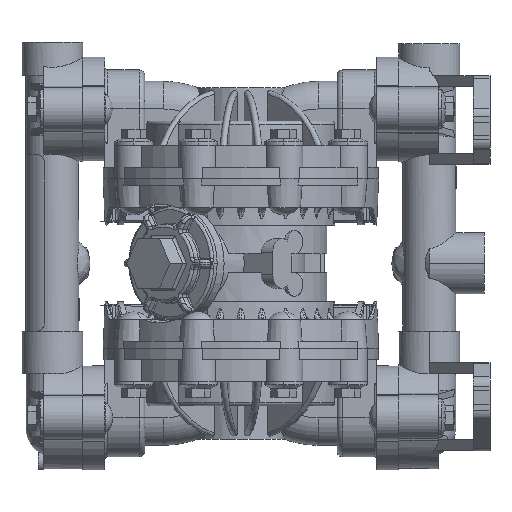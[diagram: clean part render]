
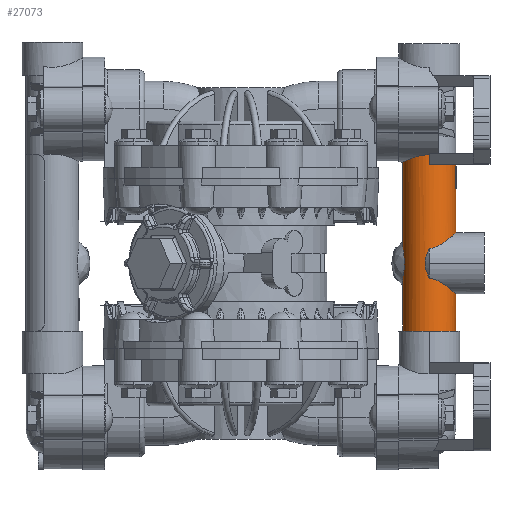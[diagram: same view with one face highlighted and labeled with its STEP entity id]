
A CAD part, left-side view. The second image highlights one B-rep face of the part: STEP entity #27073.
In plain terms, the highlighted cylindrical face has radius 15.24 mm (diameter 30.48 mm), a partial arc.
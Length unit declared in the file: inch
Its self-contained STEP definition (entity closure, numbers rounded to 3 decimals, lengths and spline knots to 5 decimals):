
#21803=CARTESIAN_POINT('',(0.,-4.27125,-1.535));
#21804=DIRECTION('',(0.,0.,-1.));
#21805=DIRECTION('',(0.,-1.,0.));
#21806=AXIS2_PLACEMENT_3D('',#21803,#21804,#21805);
#21808=CARTESIAN_POINT('',(0.,-3.67125,2.296));
#21809=CARTESIAN_POINT('',(-0.03856,-3.67125,2.296));
#21810=CARTESIAN_POINT('',(-0.1165,-3.67856,
2.29976));
#21811=CARTESIAN_POINT('',(-0.23384,-3.71425,
2.31755));
#21812=CARTESIAN_POINT('',(-0.33844,-3.77122,
2.34415));
#21813=CARTESIAN_POINT('',(-0.4285,-3.84585,
2.3755));
#21814=CARTESIAN_POINT('',(-0.50335,-3.93753,
2.40813));
#21815=CARTESIAN_POINT('',(-0.55925,-4.0433,
2.43681));
#21816=CARTESIAN_POINT('',(-0.59276,-4.15651,
2.45592));
#21817=CARTESIAN_POINT('',(-0.6,-4.23324,2.46025));
#21818=CARTESIAN_POINT('',(-0.6,-4.27125,2.46025));
#21820=CARTESIAN_POINT('',(0.,-4.87125,0.69));
#21821=CARTESIAN_POINT('',(-0.0327,-4.87125,0.69));
#21822=CARTESIAN_POINT('',(-0.10006,-4.86597,
0.6854));
#21823=CARTESIAN_POINT('',(-0.20567,-4.83853,
0.66166));
#21824=CARTESIAN_POINT('',(-0.30616,-4.79116,
0.62137));
#21825=CARTESIAN_POINT('',(-0.39416,-4.72778,
0.56917));
#21826=CARTESIAN_POINT('',(-0.46656,-4.65295,
0.51079));
#21827=CARTESIAN_POINT('',(-0.52121,-4.57321,
0.45397));
#21828=CARTESIAN_POINT('',(-0.55949,-4.4934,
0.40498));
#21829=CARTESIAN_POINT('',(-0.5839,-4.41633,
0.36818));
#21830=CARTESIAN_POINT('',(-0.59722,-4.34272,
0.34569));
#21831=CARTESIAN_POINT('',(-0.6,-4.29466,0.34073));
#21832=CARTESIAN_POINT('',(-0.6,-4.27125,0.34073));
#21834=CARTESIAN_POINT('',(-0.6,-4.27125,-0.34073));
#21835=CARTESIAN_POINT('',(-0.6,-4.29464,-0.34073));
#21836=CARTESIAN_POINT('',(-0.59723,-4.34262,
-0.34569));
#21837=CARTESIAN_POINT('',(-0.58397,-4.41599,
-0.36806));
#21838=CARTESIAN_POINT('',(-0.55974,-4.49273,
-0.40461));
#21839=CARTESIAN_POINT('',(-0.52167,-4.5724,
-0.45343));
#21840=CARTESIAN_POINT('',(-0.46734,-4.65199,
-0.51007));
#21841=CARTESIAN_POINT('',(-0.39497,-4.7271,
-0.56861));
#21842=CARTESIAN_POINT('',(-0.30696,-4.79069,
-0.62098));
#21843=CARTESIAN_POINT('',(-0.20633,-4.83831,
-0.66147));
#21844=CARTESIAN_POINT('',(-0.1004,-4.86594,
-0.68537));
#21845=CARTESIAN_POINT('',(-0.03281,-4.87125,-0.69));
#21846=CARTESIAN_POINT('',(0.,-4.87125,-0.69));
#22088=DIRECTION('',(0.,0.,1.));
#22089=VECTOR('',#22088,1.894);
#22090=CARTESIAN_POINT('',(0.,-3.67125,0.402));
#22091=LINE('',#22090,#22089);
#22124=DIRECTION('',(0.,0.,1.));
#22125=VECTOR('',#22124,1.01);
#22126=CARTESIAN_POINT('',(0.,-4.87125,0.69));
#22127=LINE('',#22126,#22125);
#22128=DIRECTION('',(0.,0.,1.));
#22129=VECTOR('',#22128,0.05);
#22130=CARTESIAN_POINT('',(0.,-4.87125,2.2));
#22131=LINE('',#22130,#22129);
#22137=DIRECTION('',(0.,0.,1.));
#22138=VECTOR('',#22137,0.845);
#22139=CARTESIAN_POINT('',(0.,-4.87125,-1.535));
#22140=LINE('',#22139,#22138);
#22171=CARTESIAN_POINT('',(0.,-3.67125,-0.402));
#22173=DIRECTION('',(0.,0.,1.));
#22174=VECTOR('',#22173,1.133);
#22175=CARTESIAN_POINT('',(0.,-3.67125,-1.535));
#22176=LINE('',#22175,#22174);
#22936=CARTESIAN_POINT('',(0.,-4.27125,2.2));
#22937=DIRECTION('',(0.,0.,1.));
#22938=DIRECTION('',(-0.2,-0.98,0.));
#22939=AXIS2_PLACEMENT_3D('',#22936,#22937,#22938);
#22950=DIRECTION('',(0.,0.,-1.));
#22951=VECTOR('',#22950,0.5);
#22952=CARTESIAN_POINT('',(-0.12,-4.85913,2.2));
#22953=LINE('',#22952,#22951);
#22958=CARTESIAN_POINT('',(0.,-4.27125,1.7));
#22959=DIRECTION('',(0.,0.,1.));
#22960=DIRECTION('',(-0.2,-0.98,0.));
#22961=AXIS2_PLACEMENT_3D('',#22958,#22959,#22960);
#23847=CARTESIAN_POINT('',(0.,-4.27125,2.25));
#23848=DIRECTION('',(0.,0.,-1.));
#23849=DIRECTION('',(0.,-1.,0.));
#23850=AXIS2_PLACEMENT_3D('',#23847,#23848,#23849);
#24041=DIRECTION('',(0.,0.,-1.));
#24042=VECTOR('',#24041,0.21025);
#24043=CARTESIAN_POINT('',(-0.6,-4.27125,2.46025));
#24044=LINE('',#24043,#24042);
#24693=CARTESIAN_POINT('',(-0.6,-4.27125,-0.34073));
#24694=CARTESIAN_POINT('',(-0.6,-4.2527,-0.30317));
#24695=CARTESIAN_POINT('',(-0.59829,-4.22035,
-0.23134));
#24696=CARTESIAN_POINT('',(-0.59432,-4.1878,
-0.13221));
#24697=CARTESIAN_POINT('',(-0.59183,-4.17253,
-0.04252));
#24698=CARTESIAN_POINT('',(-0.59183,-4.17253,
0.04253));
#24699=CARTESIAN_POINT('',(-0.59432,-4.18781,
0.13221));
#24700=CARTESIAN_POINT('',(-0.59829,-4.22035,
0.23134));
#24701=CARTESIAN_POINT('',(-0.6,-4.2527,0.30317));
#24702=CARTESIAN_POINT('',(-0.6,-4.27125,0.34073));
#24817=CARTESIAN_POINT('',(0.,-3.67125,0.402));
#24818=CARTESIAN_POINT('',(-0.02677,-3.67125,0.3815));
#24819=CARTESIAN_POINT('',(-0.07342,-3.67475,
0.33877));
#24820=CARTESIAN_POINT('',(-0.12461,-3.6838,
0.273));
#24821=CARTESIAN_POINT('',(-0.15998,-3.69273,
0.20769));
#24822=CARTESIAN_POINT('',(-0.18203,-3.69944,
0.14672));
#24823=CARTESIAN_POINT('',(-0.19511,-3.70383,
0.08879));
#24824=CARTESIAN_POINT('',(-0.20154,-3.70611,
0.03036));
#24825=CARTESIAN_POINT('',(-0.2016,-3.70613,
-0.02932));
#24826=CARTESIAN_POINT('',(-0.19528,-3.70389,
-0.08775));
#24827=CARTESIAN_POINT('',(-0.18234,-3.69954,
-0.14567));
#24828=CARTESIAN_POINT('',(-0.16037,-3.69284,
-0.20684));
#24829=CARTESIAN_POINT('',(-0.12498,-3.68388,
-0.27246));
#24830=CARTESIAN_POINT('',(-0.07369,-3.67477,
-0.33851));
#24831=CARTESIAN_POINT('',(-0.02688,-3.67125,-0.38142));
#24832=CARTESIAN_POINT('',(0.,-3.67125,-0.402));
#25894=CARTESIAN_POINT('',(-0.12,-4.85913,2.2));
#25895=CARTESIAN_POINT('',(0.,-4.87125,2.2));
#25896=VERTEX_POINT('',#25894);
#25897=VERTEX_POINT('',#25895);
#25898=CARTESIAN_POINT('',(-0.12,-4.85913,1.7));
#25899=VERTEX_POINT('',#25898);
#25900=CARTESIAN_POINT('',(0.,-4.87125,1.7));
#25901=VERTEX_POINT('',#25900);
#25958=CARTESIAN_POINT('',(0.,-4.87125,2.25));
#25959=CARTESIAN_POINT('',(-0.6,-4.27125,2.25));
#25960=VERTEX_POINT('',#25958);
#25961=VERTEX_POINT('',#25959);
#26310=VERTEX_POINT('',#21834);
#26311=VERTEX_POINT('',#21846);
#26312=VERTEX_POINT('',#21820);
#26313=VERTEX_POINT('',#21832);
#26366=VERTEX_POINT('',#21808);
#26367=VERTEX_POINT('',#21818);
#26497=CARTESIAN_POINT('',(0.,-3.67125,0.402));
#26498=VERTEX_POINT('',#26497);
#26508=VERTEX_POINT('',#22171);
#27002=CARTESIAN_POINT('',(0.,-4.87125,-1.535));
#27003=CARTESIAN_POINT('',(0.,-3.67125,-1.535));
#27004=VERTEX_POINT('',#27002);
#27005=VERTEX_POINT('',#27003);
#27034=CARTESIAN_POINT('',(0.,-4.27125,5.44725));
#27035=DIRECTION('',(0.,0.,-1.));
#27036=DIRECTION('',(0.,1.,0.));
#27037=AXIS2_PLACEMENT_3D('',#27034,#27035,#27036);
#27038=CYLINDRICAL_SURFACE('',#27037,0.6);
#27040=ORIENTED_EDGE('',*,*,#27039,.T.);
#27042=ORIENTED_EDGE('',*,*,#27041,.T.);
#27044=ORIENTED_EDGE('',*,*,#27043,.F.);
#27046=ORIENTED_EDGE('',*,*,#27045,.T.);
#27048=ORIENTED_EDGE('',*,*,#27047,.T.);
#27050=ORIENTED_EDGE('',*,*,#27049,.T.);
#27052=ORIENTED_EDGE('',*,*,#27051,.F.);
#27054=ORIENTED_EDGE('',*,*,#27053,.F.);
#27056=ORIENTED_EDGE('',*,*,#27055,.F.);
#27058=ORIENTED_EDGE('',*,*,#27057,.T.);
#27060=ORIENTED_EDGE('',*,*,#27059,.T.);
#27062=ORIENTED_EDGE('',*,*,#27061,.F.);
#27064=ORIENTED_EDGE('',*,*,#27063,.T.);
#27066=ORIENTED_EDGE('',*,*,#27065,.F.);
#27068=ORIENTED_EDGE('',*,*,#27067,.T.);
#27070=ORIENTED_EDGE('',*,*,#27069,.F.);
#27071=EDGE_LOOP('',(#27040,#27042,#27044,#27046,#27048,#27050,#27052,#27054,
#27056,#27058,#27060,#27062,#27064,#27066,#27068,#27070));
#27072=FACE_OUTER_BOUND('',#27071,.F.);
#27073=ADVANCED_FACE('',(#27072),#27038,.T.);
#21807=CIRCLE('',#21806,0.6);
#21819=B_SPLINE_CURVE_WITH_KNOTS('',3,(#21808,#21809,#21810,#21811,#21812,
#21813,#21814,#21815,#21816,#21817,#21818),.UNSPECIFIED.,.F.,.F.,(4,1,1,1,1,1,1,
1,4),(0.,0.125,0.25,0.375,0.5,0.625,0.75,0.875,1.),
.UNSPECIFIED.);
#21833=B_SPLINE_CURVE_WITH_KNOTS('',3,(#21820,#21821,#21822,#21823,#21824,
#21825,#21826,#21827,#21828,#21829,#21830,#21831,#21832),.UNSPECIFIED.,.F.,.F.,(
4,1,1,1,1,1,1,1,1,1,4),(0.,0.1,0.2,0.3,0.4,0.5,0.6,0.7,0.8,
0.9,1.),.UNSPECIFIED.);
#21847=B_SPLINE_CURVE_WITH_KNOTS('',3,(#21834,#21835,#21836,#21837,#21838,
#21839,#21840,#21841,#21842,#21843,#21844,#21845,#21846),.UNSPECIFIED.,.F.,.F.,(
4,1,1,1,1,1,1,1,1,1,4),(0.,0.1,0.2,0.3,0.4,0.5,0.6,0.7,0.8,
0.9,1.),.UNSPECIFIED.);
#22940=CIRCLE('',#22939,0.6);
#22962=CIRCLE('',#22961,0.6);
#23851=CIRCLE('',#23850,0.6);
#24703=B_SPLINE_CURVE_WITH_KNOTS('',3,(#24693,#24694,#24695,#24696,#24697,
#24698,#24699,#24700,#24701,#24702),.UNSPECIFIED.,.F.,.F.,(4,1,1,1,1,1,1,4),(
0.,0.14286,0.28571,0.42857,0.57143,
0.71429,0.85714,1.),.UNSPECIFIED.);
#24833=B_SPLINE_CURVE_WITH_KNOTS('',3,(#24817,#24818,#24819,#24820,#24821,
#24822,#24823,#24824,#24825,#24826,#24827,#24828,#24829,#24830,#24831,#24832),
.UNSPECIFIED.,.F.,.F.,(4,1,1,1,1,1,1,1,1,1,1,1,1,4),(0.,0.07692,
0.15385,0.23077,0.30769,0.38462,
0.46154,0.53846,0.61538,0.69231,
0.76923,0.84615,0.92308,1.),.UNSPECIFIED.);
#27039=EDGE_CURVE('',#27004,#27005,#21807,.T.);
#27041=EDGE_CURVE('',#27005,#26508,#22176,.T.);
#27043=EDGE_CURVE('',#26498,#26508,#24833,.T.);
#27045=EDGE_CURVE('',#26498,#26366,#22091,.T.);
#27047=EDGE_CURVE('',#26366,#26367,#21819,.T.);
#27049=EDGE_CURVE('',#26367,#25961,#24044,.T.);
#27051=EDGE_CURVE('',#25960,#25961,#23851,.T.);
#27053=EDGE_CURVE('',#25897,#25960,#22131,.T.);
#27055=EDGE_CURVE('',#25896,#25897,#22940,.T.);
#27057=EDGE_CURVE('',#25896,#25899,#22953,.T.);
#27059=EDGE_CURVE('',#25899,#25901,#22962,.T.);
#27061=EDGE_CURVE('',#26312,#25901,#22127,.T.);
#27063=EDGE_CURVE('',#26312,#26313,#21833,.T.);
#27065=EDGE_CURVE('',#26310,#26313,#24703,.T.);
#27067=EDGE_CURVE('',#26310,#26311,#21847,.T.);
#27069=EDGE_CURVE('',#27004,#26311,#22140,.T.);
